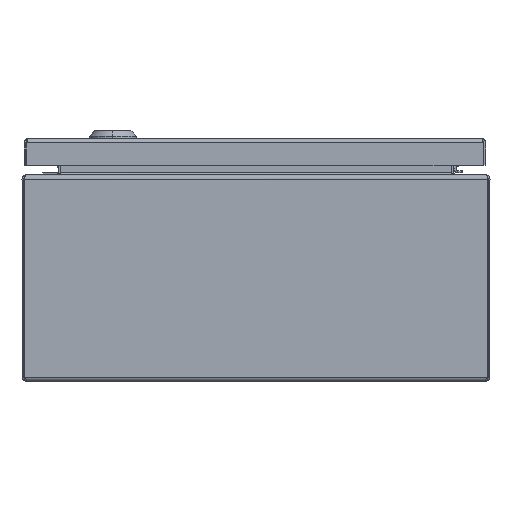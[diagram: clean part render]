
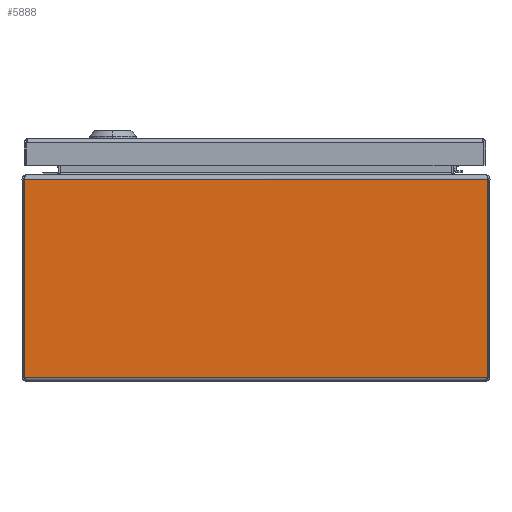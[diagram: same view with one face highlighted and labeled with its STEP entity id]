
A CAD part, front view. The second image highlights one B-rep face of the part: STEP entity #5888.
In plain terms, the highlighted planar face has unit normal (0, -1, 0).
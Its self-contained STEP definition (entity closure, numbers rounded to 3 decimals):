
#67 = VERTEX_POINT ( 'NONE', #29011 ) ;
#641 = DIRECTION ( 'NONE',  ( 0., 1., 0. ) ) ;
#1006 = DIRECTION ( 'NONE',  ( -1., 0., 0. ) ) ;
#3148 = DIRECTION ( 'NONE',  ( -1., 0., 0. ) ) ;
#3494 = LINE ( 'NONE', #34953, #39540 ) ;
#5384 = ORIENTED_EDGE ( 'NONE', *, *, #40635, .F. ) ;
#5888 = ADVANCED_FACE ( 'NONE', ( #31248 ), #37940, .F. ) ;
#8323 = EDGE_LOOP ( 'NONE', ( #23499, #5384, #28347, #27682 ) ) ;
#9498 = LINE ( 'NONE', #19325, #32835 ) ;
#9827 = CARTESIAN_POINT ( 'NONE',  ( 148.659, -200., 129.6 ) ) ;
#10586 = CARTESIAN_POINT ( 'NONE',  ( -148.659, -200., 129.6 ) ) ;
#11325 = CARTESIAN_POINT ( 'NONE',  ( 2150., -200., 129.6 ) ) ;
#12772 = VERTEX_POINT ( 'NONE', #22162 ) ;
#13818 = DIRECTION ( 'NONE',  ( 0., 0., -1. ) ) ;
#14007 = EDGE_CURVE ( 'NONE', #36415, #67, #3494, .T. ) ;
#16303 = LINE ( 'NONE', #9827, #29655 ) ;
#18869 = VERTEX_POINT ( 'NONE', #10586 ) ;
#19325 = CARTESIAN_POINT ( 'NONE',  ( -148.659, -200., 129.6 ) ) ;
#21376 = EDGE_CURVE ( 'NONE', #12772, #18869, #24714, .T. ) ;
#22162 = CARTESIAN_POINT ( 'NONE',  ( 148.659, -200., 129.6 ) ) ;
#23499 = ORIENTED_EDGE ( 'NONE', *, *, #14007, .F. ) ;
#24714 = LINE ( 'NONE', #37092, #27551 ) ;
#27551 = VECTOR ( 'NONE', #3148, 1000. ) ;
#27682 = ORIENTED_EDGE ( 'NONE', *, *, #41596, .F. ) ;
#28347 = ORIENTED_EDGE ( 'NONE', *, *, #21376, .T. ) ;
#29011 = CARTESIAN_POINT ( 'NONE',  ( -148.659, -200., 2.65 ) ) ;
#29655 = VECTOR ( 'NONE', #37546, 1000. ) ;
#31248 = FACE_OUTER_BOUND ( 'NONE', #8323, .T. ) ;
#32598 = AXIS2_PLACEMENT_3D ( 'NONE', #11325, #641, #13818 ) ;
#32835 = VECTOR ( 'NONE', #43299, 1000. ) ;
#34953 = CARTESIAN_POINT ( 'NONE',  ( 2150., -200., 2.65 ) ) ;
#36415 = VERTEX_POINT ( 'NONE', #39610 ) ;
#37092 = CARTESIAN_POINT ( 'NONE',  ( 2150., -200., 129.6 ) ) ;
#37546 = DIRECTION ( 'NONE',  ( 0., 0., -1. ) ) ;
#37940 = PLANE ( 'NONE',  #32598 ) ;
#39540 = VECTOR ( 'NONE', #1006, 1000. ) ;
#39610 = CARTESIAN_POINT ( 'NONE',  ( 148.659, -200., 2.65 ) ) ;
#40635 = EDGE_CURVE ( 'NONE', #12772, #36415, #16303, .T. ) ;
#41596 = EDGE_CURVE ( 'NONE', #67, #18869, #9498, .T. ) ;
#43299 = DIRECTION ( 'NONE',  ( 0., 0., 1. ) ) ;
